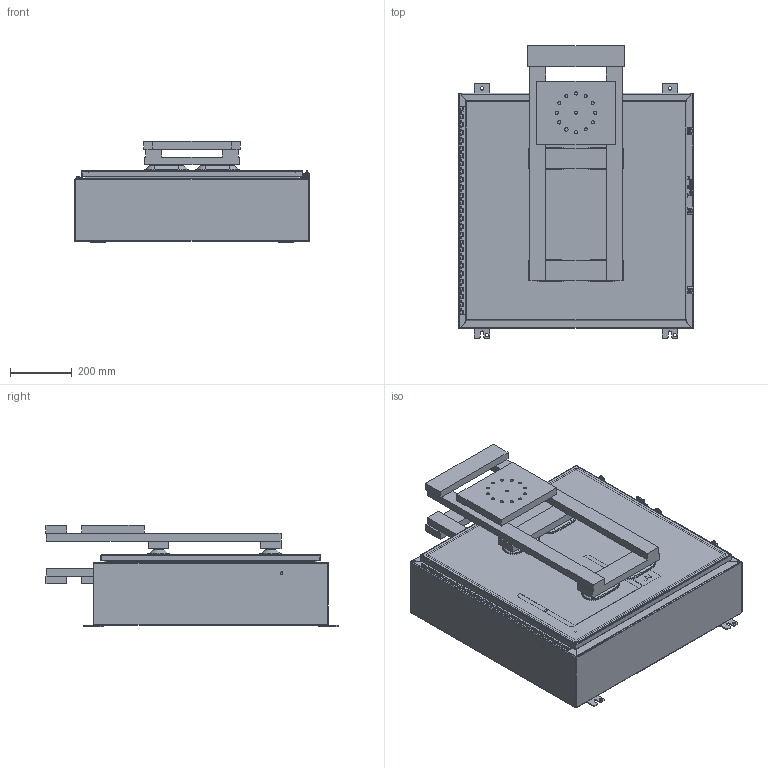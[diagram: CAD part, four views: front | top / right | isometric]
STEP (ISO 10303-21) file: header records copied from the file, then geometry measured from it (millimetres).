
FILE_DESCRIPTION((''),'2;1');
FILE_NAME('MODEL-303_ASM','2026-04-06T12:57:16',('ChadS'),('SAGINAW CONTROL & ENGINEERING'),'CREO PARAMETRIC BY PTC INC, 2021284','CREO PARAMETRIC BY PTC INC, 2021284','');
FILE_SCHEMA(('AUTOMOTIVE_DESIGN { 1 0 10303 214 1 1 1 1 }'));
Length unit declared in the file: inch
Products named in the file (32): MODEL-303-BDY; MODEL-303-TP; MODEL-303-BTM; MODEL-303-DR; 100837; 100882; 111267; 125597; 118920_DR; 118920_PIN; 118920_BX; 118920_STUD; 118920_ASM; 100897; MODEL-303-DOOR-GASKET; 128600; 102483; DAPUP; DAPUP_ASM; MODEL-303-DOOR-ASSY_ASM; 102211; 101653; 121452; 120131_BASE; 120131_CLAMP; 120131_SCREW; 120131_CLOSED_ASM; 120134; SUBPANEL; 100904; SUBPANEL-SUBASSEMBLY_ASM; MODEL-303_ASM
Assembly tree (59 placements, depth 4):
  MODEL-303_ASM
    MODEL-303-BDY
    MODEL-303-TP
    MODEL-303-BTM
    MODEL-303-DOOR-ASSY_ASM
      MODEL-303-DR
      100837  x3
      100882  x2
      111267
      125597
      118920_ASM
        118920_DR
        118920_PIN
        118920_BX
        118920_STUD  x5
      100897  x5
      MODEL-303-DOOR-GASKET
      128600
      102483
      DAPUP_ASM
        DAPUP  x2
    102211  x4
    100837
    101653  x4
    121452
    120131_CLOSED_ASM  x3
      120131_BASE
      120131_CLAMP
      120131_SCREW
    100882  x4
    120134
    SUBPANEL-SUBASSEMBLY_ASM
      SUBPANEL
      100904  x4
Bounding box: 762 x 947.02 x 327.71 mm (x, y, z)
Volume: 15775446.6 mm3; surface area: 6450472.8 mm2
Topology: 63 solids, 63 shells, 4682 faces, 12336 edges, 7841 vertices
Faces by surface type: plane 1946, bspline 1107, cylinder 1106, torus 280, cone 132, sphere 111
Entity records: 112714 total; most frequent: CARTESIAN_POINT 32779, ORIENTED_EDGE 11714, DIRECTION 10911, PRESENTATION_STYLE_ASSIGNMENT 6180, STYLED_ITEM 5990, CURVE_STYLE 5857, EDGE_CURVE 5857, AXIS2_PLACEMENT_3D 3813
